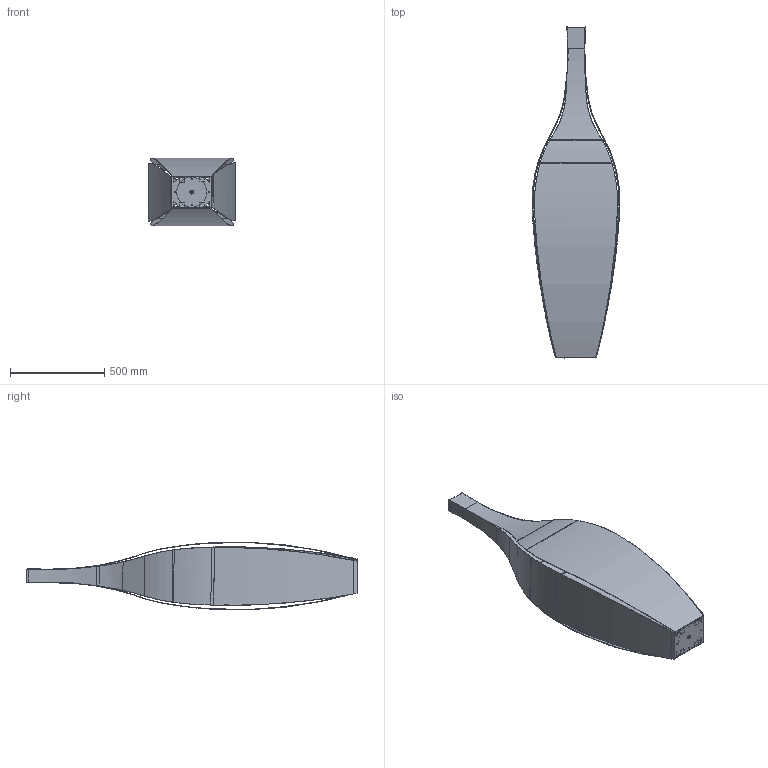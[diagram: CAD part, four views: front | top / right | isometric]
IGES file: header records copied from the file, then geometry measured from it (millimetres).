
Start section: SolidWorks IGES file using analytic representation for surfaces
Global section: file name: \\utenti\Dati Utenti\Tecnico\DC\2D - 3D per sito\3D\DeCastelli-3D-Rocco 175.igs; native system: SolidWorks 2022; preprocessor: SolidWorks 2022; author: Simonep; date: 240729.120652; units: millimetre
Bounding box: 466.77 x 1760.84 x 359.71 mm (x, y, z)
Surface area: 3534370.3 mm2 (no closed solid volume)
Topology: 0 solids, 0 shells, 215 faces, 1964 edges, 1964 vertices
Faces by surface type: bspline 137, revolution 78
